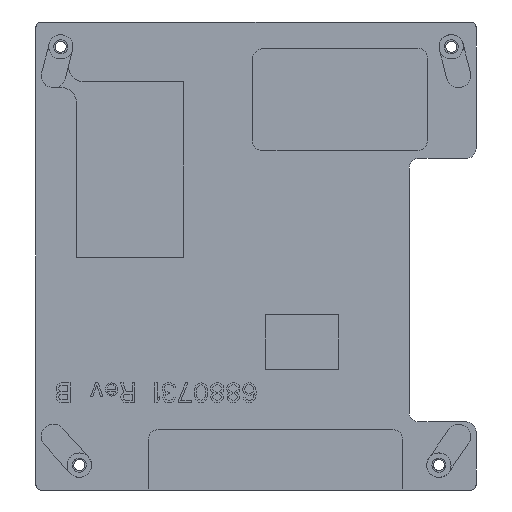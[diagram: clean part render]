
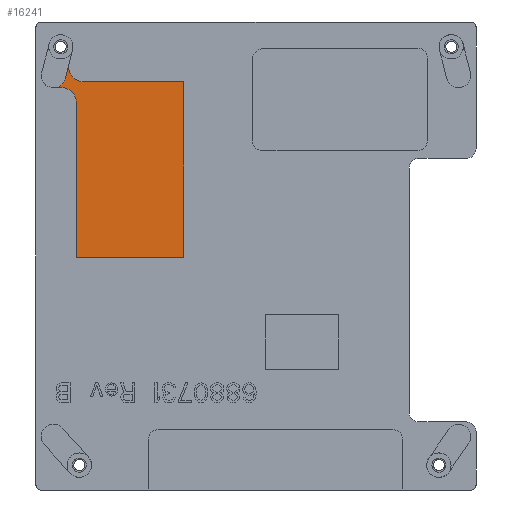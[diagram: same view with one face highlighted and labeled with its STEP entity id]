
A CAD part, front view. The second image highlights one B-rep face of the part: STEP entity #16241.
In plain terms, the highlighted planar face has unit normal (0, -1, 0).
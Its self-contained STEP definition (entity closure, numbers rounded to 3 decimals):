
#248=DIRECTION('',(0.246,0.,0.969));
#249=VECTOR('',#248,3.175);
#250=CARTESIAN_POINT('',(-39.072,-1.1,36.38));
#251=LINE('',#250,#249);
#252=CARTESIAN_POINT('',(-35.383,-1.1,38.72));
#253=DIRECTION('',(0.,1.,0.));
#254=DIRECTION('',(0.,0.,-1.));
#255=AXIS2_PLACEMENT_3D('',#252,#253,#254);
#5710=CARTESIAN_POINT('',(-41.495,-1.1,36.995));
#5711=DIRECTION('',(0.,-1.,0.));
#5712=DIRECTION('',(0.,0.,-1.));
#5713=AXIS2_PLACEMENT_3D('',#5710,#5711,#5712);
#5715=DIRECTION('',(1.,0.,0.));
#5716=VECTOR('',#5715,20.581);
#5717=CARTESIAN_POINT('',(-35.383,-1.1,35.72));
#5718=LINE('',#5717,#5716);
#5719=DIRECTION('',(1.,0.,0.));
#5720=VECTOR('',#5719,1.693);
#5721=CARTESIAN_POINT('',(-41.495,-1.1,34.495));
#5722=LINE('',#5721,#5720);
#5735=DIRECTION('',(0.,0.,1.));
#5736=VECTOR('',#5735,36.);
#5737=CARTESIAN_POINT('',(-14.802,-1.1,-0.28));
#5738=LINE('',#5737,#5736);
#5743=DIRECTION('',(1.,0.,0.));
#5744=VECTOR('',#5743,22.);
#5745=CARTESIAN_POINT('',(-36.802,-1.1,-0.28));
#5746=LINE('',#5745,#5744);
#5755=DIRECTION('',(0.,0.,-1.));
#5756=VECTOR('',#5755,31.775);
#5757=CARTESIAN_POINT('',(-36.802,-1.1,31.495));
#5758=LINE('',#5757,#5756);
#5759=CARTESIAN_POINT('',(-39.802,-1.1,31.495));
#5760=DIRECTION('',(0.,1.,0.));
#5761=DIRECTION('',(0.,0.,1.));
#5762=AXIS2_PLACEMENT_3D('',#5759,#5760,#5761);
#6255=CARTESIAN_POINT('',(-14.802,-1.1,-0.28));
#6256=CARTESIAN_POINT('',(-14.802,-1.1,35.72));
#6257=VERTEX_POINT('',#6255);
#6258=VERTEX_POINT('',#6256);
#6259=CARTESIAN_POINT('',(-36.802,-1.1,-0.28));
#6260=VERTEX_POINT('',#6259);
#8022=CARTESIAN_POINT('',(-41.495,-1.1,34.495));
#8024=VERTEX_POINT('',#8022);
#8026=CARTESIAN_POINT('',(-36.802,-1.1,31.495));
#8028=VERTEX_POINT('',#8026);
#8031=CARTESIAN_POINT('',(-39.802,-1.1,34.495));
#8032=VERTEX_POINT('',#8031);
#8034=CARTESIAN_POINT('',(-38.291,-1.1,39.458));
#8036=VERTEX_POINT('',#8034);
#8039=CARTESIAN_POINT('',(-35.383,-1.1,35.72));
#8040=VERTEX_POINT('',#8039);
#8041=CARTESIAN_POINT('',(-39.072,-1.1,36.38));
#8042=VERTEX_POINT('',#8041);
#16219=CARTESIAN_POINT('',(0.,-1.1,0.));
#16220=DIRECTION('',(0.,-1.,0.));
#16221=DIRECTION('',(1.,0.,0.));
#16222=AXIS2_PLACEMENT_3D('',#16219,#16220,#16221);
#16223=PLANE('',#16222);
#16224=ORIENTED_EDGE('',*,*,#16207,.T.);
#16225=ORIENTED_EDGE('',*,*,#8391,.T.);
#16226=ORIENTED_EDGE('',*,*,#8413,.F.);
#16228=ORIENTED_EDGE('',*,*,#16227,.T.);
#16230=ORIENTED_EDGE('',*,*,#16229,.F.);
#16232=ORIENTED_EDGE('',*,*,#16231,.F.);
#16234=ORIENTED_EDGE('',*,*,#16233,.F.);
#16236=ORIENTED_EDGE('',*,*,#16235,.F.);
#16238=ORIENTED_EDGE('',*,*,#16237,.F.);
#16239=EDGE_LOOP('',(#16224,#16225,#16226,#16228,#16230,#16232,#16234,#16236,
#16238));
#16240=FACE_OUTER_BOUND('',#16239,.F.);
#16241=ADVANCED_FACE('',(#16240),#16223,.T.);
#256=CIRCLE('',#255,3.);
#5714=CIRCLE('',#5713,2.5);
#5763=CIRCLE('',#5762,3.);
#8391=EDGE_CURVE('',#8042,#8036,#251,.T.);
#8413=EDGE_CURVE('',#8040,#8036,#256,.T.);
#16207=EDGE_CURVE('',#8024,#8042,#5714,.T.);
#16227=EDGE_CURVE('',#8040,#6258,#5718,.T.);
#16229=EDGE_CURVE('',#6257,#6258,#5738,.T.);
#16231=EDGE_CURVE('',#6260,#6257,#5746,.T.);
#16233=EDGE_CURVE('',#8028,#6260,#5758,.T.);
#16235=EDGE_CURVE('',#8032,#8028,#5763,.T.);
#16237=EDGE_CURVE('',#8024,#8032,#5722,.T.);
